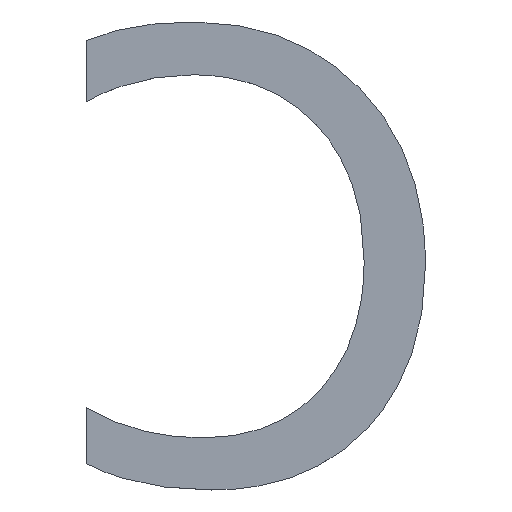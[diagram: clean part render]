
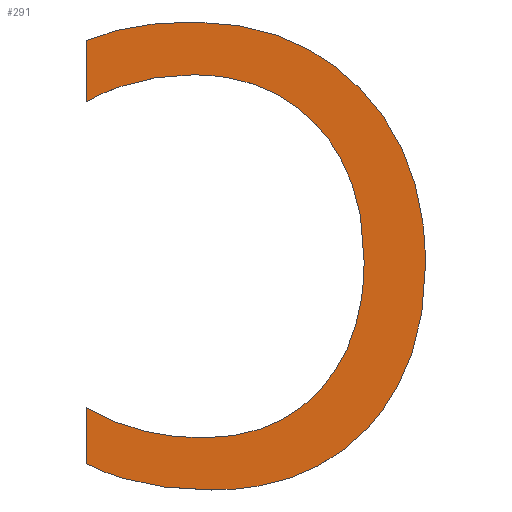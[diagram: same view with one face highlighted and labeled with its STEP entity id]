
A CAD part, top view. The second image highlights one B-rep face of the part: STEP entity #291.
In plain terms, the highlighted planar face has unit normal (0, 0, 1).
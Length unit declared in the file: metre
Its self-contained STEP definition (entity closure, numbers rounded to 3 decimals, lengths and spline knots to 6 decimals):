
#24=LINE('',#481,#42);
#25=LINE('',#513,#43);
#42=VECTOR('',#424,1.);
#43=VECTOR('',#425,1.);
#60=ORIENTED_EDGE('',*,*,#144,.F.);
#61=ORIENTED_EDGE('',*,*,#145,.F.);
#62=ORIENTED_EDGE('',*,*,#146,.F.);
#63=ORIENTED_EDGE('',*,*,#147,.F.);
#64=ORIENTED_EDGE('',*,*,#148,.F.);
#65=ORIENTED_EDGE('',*,*,#149,.F.);
#66=ORIENTED_EDGE('',*,*,#150,.F.);
#67=ORIENTED_EDGE('',*,*,#151,.F.);
#68=ORIENTED_EDGE('',*,*,#152,.F.);
#69=ORIENTED_EDGE('',*,*,#153,.F.);
#70=ORIENTED_EDGE('',*,*,#154,.F.);
#71=ORIENTED_EDGE('',*,*,#155,.F.);
#72=ORIENTED_EDGE('',*,*,#156,.F.);
#73=ORIENTED_EDGE('',*,*,#157,.F.);
#144=EDGE_CURVE('',#186,#187,#214,.T.);
#145=EDGE_CURVE('',#188,#186,#215,.T.);
#146=EDGE_CURVE('',#189,#188,#216,.T.);
#147=EDGE_CURVE('',#190,#189,#217,.T.);
#148=EDGE_CURVE('',#191,#190,#218,.T.);
#149=EDGE_CURVE('',#192,#191,#219,.T.);
#150=EDGE_CURVE('',#193,#192,#24,.T.);
#151=EDGE_CURVE('',#194,#193,#220,.T.);
#152=EDGE_CURVE('',#195,#194,#221,.T.);
#153=EDGE_CURVE('',#196,#195,#222,.T.);
#154=EDGE_CURVE('',#197,#196,#223,.T.);
#155=EDGE_CURVE('',#198,#197,#224,.T.);
#156=EDGE_CURVE('',#199,#198,#225,.T.);
#157=EDGE_CURVE('',#187,#199,#25,.T.);
#186=VERTEX_POINT('',#454);
#187=VERTEX_POINT('',#455);
#188=VERTEX_POINT('',#460);
#189=VERTEX_POINT('',#465);
#190=VERTEX_POINT('',#470);
#191=VERTEX_POINT('',#475);
#192=VERTEX_POINT('',#480);
#193=VERTEX_POINT('',#482);
#194=VERTEX_POINT('',#487);
#195=VERTEX_POINT('',#492);
#196=VERTEX_POINT('',#497);
#197=VERTEX_POINT('',#502);
#198=VERTEX_POINT('',#507);
#199=VERTEX_POINT('',#512);
#214=B_SPLINE_CURVE_WITH_KNOTS('',3,(#450,#451,#452,#453),.UNSPECIFIED.,
 .F.,.F.,(4,4),(0.,1.),.UNSPECIFIED.);
#215=B_SPLINE_CURVE_WITH_KNOTS('',3,(#456,#457,#458,#459),.UNSPECIFIED.,
 .F.,.F.,(4,4),(1.,2.),.UNSPECIFIED.);
#216=B_SPLINE_CURVE_WITH_KNOTS('',3,(#461,#462,#463,#464),.UNSPECIFIED.,
 .F.,.F.,(4,4),(2.,3.),.UNSPECIFIED.);
#217=B_SPLINE_CURVE_WITH_KNOTS('',3,(#466,#467,#468,#469),.UNSPECIFIED.,
 .F.,.F.,(4,4),(3.,4.),.UNSPECIFIED.);
#218=B_SPLINE_CURVE_WITH_KNOTS('',3,(#471,#472,#473,#474),.UNSPECIFIED.,
 .F.,.F.,(4,4),(4.,5.),.UNSPECIFIED.);
#219=B_SPLINE_CURVE_WITH_KNOTS('',3,(#476,#477,#478,#479),.UNSPECIFIED.,
 .F.,.F.,(4,4),(5.,6.),.UNSPECIFIED.);
#220=B_SPLINE_CURVE_WITH_KNOTS('',3,(#483,#484,#485,#486),.UNSPECIFIED.,
 .F.,.F.,(4,4),(7.,8.),.UNSPECIFIED.);
#221=B_SPLINE_CURVE_WITH_KNOTS('',3,(#488,#489,#490,#491),.UNSPECIFIED.,
 .F.,.F.,(4,4),(8.,9.),.UNSPECIFIED.);
#222=B_SPLINE_CURVE_WITH_KNOTS('',3,(#493,#494,#495,#496),.UNSPECIFIED.,
 .F.,.F.,(4,4),(9.,10.),.UNSPECIFIED.);
#223=B_SPLINE_CURVE_WITH_KNOTS('',3,(#498,#499,#500,#501),.UNSPECIFIED.,
 .F.,.F.,(4,4),(10.,11.),.UNSPECIFIED.);
#224=B_SPLINE_CURVE_WITH_KNOTS('',3,(#503,#504,#505,#506),.UNSPECIFIED.,
 .F.,.F.,(4,4),(11.,12.),.UNSPECIFIED.);
#225=B_SPLINE_CURVE_WITH_KNOTS('',3,(#508,#509,#510,#511),.UNSPECIFIED.,
 .F.,.F.,(4,4),(12.,13.),.UNSPECIFIED.);
#238=EDGE_LOOP('',(#60,#61,#62,#63,#64,#65,#66,#67,#68,#69,#70,#71,#72,
#73));
#254=FACE_BOUND('',#238,.T.);
#270=PLANE('',#416);
#291=ADVANCED_FACE('',(#254),#270,.F.);
#416=AXIS2_PLACEMENT_3D('',#449,#422,#423);
#422=DIRECTION('',(0.,0.,-1.));
#423=DIRECTION('',(0.,1.,0.));
#424=DIRECTION('',(0.,1.,0.));
#425=DIRECTION('',(0.,1.,0.));
#449=CARTESIAN_POINT('',(-0.098012,-0.011523,0.006263));
#450=CARTESIAN_POINT('',(-0.098003,-0.011524,0.006263));
#451=CARTESIAN_POINT('',(-0.098009,-0.011524,0.006263));
#452=CARTESIAN_POINT('',(-0.098015,-0.011523,0.006263));
#453=CARTESIAN_POINT('',(-0.098019,-0.01152,0.006263));
#454=CARTESIAN_POINT('',(-0.098003,-0.011524,0.006263));
#455=CARTESIAN_POINT('',(-0.098019,-0.01152,0.006263));
#456=CARTESIAN_POINT('',(-0.097982,-0.011516,0.006263));
#457=CARTESIAN_POINT('',(-0.097987,-0.011521,0.006263));
#458=CARTESIAN_POINT('',(-0.097994,-0.011524,0.006263));
#459=CARTESIAN_POINT('',(-0.098003,-0.011524,0.006263));
#460=CARTESIAN_POINT('',(-0.097982,-0.011516,0.006263));
#461=CARTESIAN_POINT('',(-0.097974,-0.011494,0.006263));
#462=CARTESIAN_POINT('',(-0.097974,-0.011503,0.006263));
#463=CARTESIAN_POINT('',(-0.097977,-0.01151,0.006263));
#464=CARTESIAN_POINT('',(-0.097982,-0.011516,0.006263));
#465=CARTESIAN_POINT('',(-0.097974,-0.011494,0.006263));
#466=CARTESIAN_POINT('',(-0.097983,-0.01147,0.006263));
#467=CARTESIAN_POINT('',(-0.097977,-0.011476,0.006263));
#468=CARTESIAN_POINT('',(-0.097974,-0.011484,0.006263));
#469=CARTESIAN_POINT('',(-0.097974,-0.011494,0.006263));
#470=CARTESIAN_POINT('',(-0.097983,-0.01147,0.006263));
#471=CARTESIAN_POINT('',(-0.098005,-0.011461,0.006263));
#472=CARTESIAN_POINT('',(-0.097996,-0.011461,0.006263));
#473=CARTESIAN_POINT('',(-0.097989,-0.011464,0.006263));
#474=CARTESIAN_POINT('',(-0.097983,-0.01147,0.006263));
#475=CARTESIAN_POINT('',(-0.098005,-0.011461,0.006263));
#476=CARTESIAN_POINT('',(-0.098019,-0.011464,0.006263));
#477=CARTESIAN_POINT('',(-0.098016,-0.011462,0.006263));
#478=CARTESIAN_POINT('',(-0.098011,-0.011461,0.006263));
#479=CARTESIAN_POINT('',(-0.098005,-0.011461,0.006263));
#480=CARTESIAN_POINT('',(-0.098019,-0.011464,0.006263));
#481=CARTESIAN_POINT('',(-0.098019,-0.011464,0.006263));
#482=CARTESIAN_POINT('',(-0.098019,-0.011472,0.006263));
#483=CARTESIAN_POINT('',(-0.098005,-0.011468,0.006263));
#484=CARTESIAN_POINT('',(-0.09801,-0.011468,0.006263));
#485=CARTESIAN_POINT('',(-0.098015,-0.01147,0.006263));
#486=CARTESIAN_POINT('',(-0.098019,-0.011472,0.006263));
#487=CARTESIAN_POINT('',(-0.098005,-0.011468,0.006263));
#488=CARTESIAN_POINT('',(-0.097988,-0.011475,0.006263));
#489=CARTESIAN_POINT('',(-0.097993,-0.011471,0.006263));
#490=CARTESIAN_POINT('',(-0.097998,-0.011468,0.006263));
#491=CARTESIAN_POINT('',(-0.098005,-0.011468,0.006263));
#492=CARTESIAN_POINT('',(-0.097988,-0.011475,0.006263));
#493=CARTESIAN_POINT('',(-0.097982,-0.011493,0.006263));
#494=CARTESIAN_POINT('',(-0.097982,-0.011486,0.006263));
#495=CARTESIAN_POINT('',(-0.097984,-0.01148,0.006263));
#496=CARTESIAN_POINT('',(-0.097988,-0.011475,0.006263));
#497=CARTESIAN_POINT('',(-0.097982,-0.011493,0.006263));
#498=CARTESIAN_POINT('',(-0.097988,-0.011511,0.006263));
#499=CARTESIAN_POINT('',(-0.097984,-0.011506,0.006263));
#500=CARTESIAN_POINT('',(-0.097982,-0.011501,0.006263));
#501=CARTESIAN_POINT('',(-0.097982,-0.011493,0.006263));
#502=CARTESIAN_POINT('',(-0.097988,-0.011511,0.006263));
#503=CARTESIAN_POINT('',(-0.098004,-0.011517,0.006263));
#504=CARTESIAN_POINT('',(-0.097997,-0.011517,0.006263));
#505=CARTESIAN_POINT('',(-0.097992,-0.011515,0.006263));
#506=CARTESIAN_POINT('',(-0.097988,-0.011511,0.006263));
#507=CARTESIAN_POINT('',(-0.098004,-0.011517,0.006263));
#508=CARTESIAN_POINT('',(-0.098019,-0.011513,0.006263));
#509=CARTESIAN_POINT('',(-0.098015,-0.011516,0.006263));
#510=CARTESIAN_POINT('',(-0.09801,-0.011517,0.006263));
#511=CARTESIAN_POINT('',(-0.098004,-0.011517,0.006263));
#512=CARTESIAN_POINT('',(-0.098019,-0.011513,0.006263));
#513=CARTESIAN_POINT('',(-0.098019,-0.011513,0.006263));
